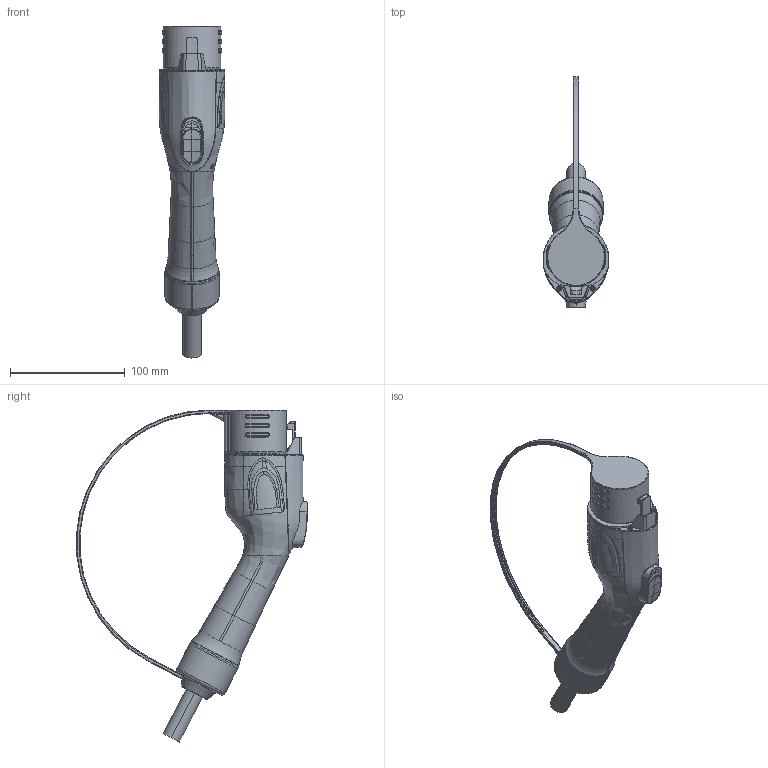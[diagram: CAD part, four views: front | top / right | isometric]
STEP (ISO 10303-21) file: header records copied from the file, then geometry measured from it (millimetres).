
FILE_DESCRIPTION((''),'2;1');
FILE_NAME('MBIAO_ASM','2024-10-29T15:58:03',('Administrator'),(''),'CREO PARAMETRIC BY PTC INC, 2021063','CREO PARAMETRIC BY PTC INC, 2021063','');
FILE_SCHEMA(('AUTOMOTIVE_DESIGN { 1 0 10303 214 1 1 1 1 }'));
Products named in the file (4): QIANGTI_SOLID_1; FCG; ASM0002_ASM; MBIAO_ASM
Assembly tree (3 placements, depth 3):
  MBIAO_ASM
    ASM0002_ASM
      QIANGTI_SOLID_1
      FCG
Bounding box: 57.41 x 201 x 288.94 mm (x, y, z)
Volume: 456920.1 mm3; surface area: 78337.7 mm2
Topology: 2 solids, 16 shells, 1447 faces, 3857 edges, 2463 vertices
Faces by surface type: plane 540, bspline 435, cylinder 210, torus 123, cone 83, extrusion 31, sphere 21, revolution 4
Entity records: 99262 total; most frequent: CARTESIAN_POINT 44338, ORIENTED_EDGE 7664, DIRECTION 5528, PRESENTATION_STYLE_ASSIGNMENT 5316, STYLED_ITEM 5316, CURVE_STYLE 3867, EDGE_CURVE 3832, VERTEX_POINT 2463
